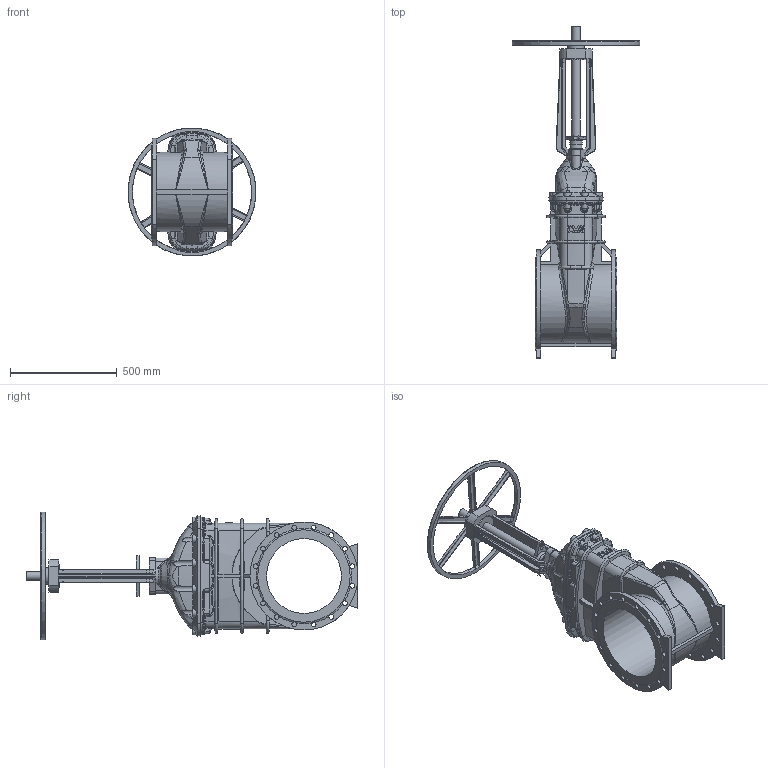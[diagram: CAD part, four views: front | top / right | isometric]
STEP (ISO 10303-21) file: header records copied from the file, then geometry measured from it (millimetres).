
FILE_DESCRIPTION (( 'STEP AP203' ), '1' );
FILE_NAME ('O_21_34_DN350_40XXXXX close_AA0.step', '2020-02-12T09:43:23', ( 'Windows User' ), ( 'AVK' ), 'SwSTEP 2.0', 'SolidWorks 2012', '' );
FILE_SCHEMA (( 'CONFIG_CONTROL_DESIGN' ));
Products named in the file (1): O_21_34_DN350_40XXXXX close_AA0
Bounding box: 598.51 x 1552.5 x 598.51 mm (x, y, z)
Volume: 57807236.2 mm3; surface area: 2888142.2 mm2
Topology: 1 solids, 1 shells, 969 faces, 2616 edges, 1622 vertices
Faces by surface type: bspline 341, plane 207, cylinder 197, cone 130, torus 74, sphere 20
Full cylindrical faces by diameter (mm): 23 x32, 40 x2, 55.9 x1, 60 x1, 64 x1, 77 x1, 105 x1, 350 x1, 505 x2
Entity records: 48020 total; most frequent: CARTESIAN_POINT 27366, ORIENTED_EDGE 5022, DIRECTION 3374, EDGE_CURVE 2511, VERTEX_POINT 1575, AXIS2_PLACEMENT_3D 1422, EDGE_LOOP 1086, FACE_OUTER_BOUND 1015
